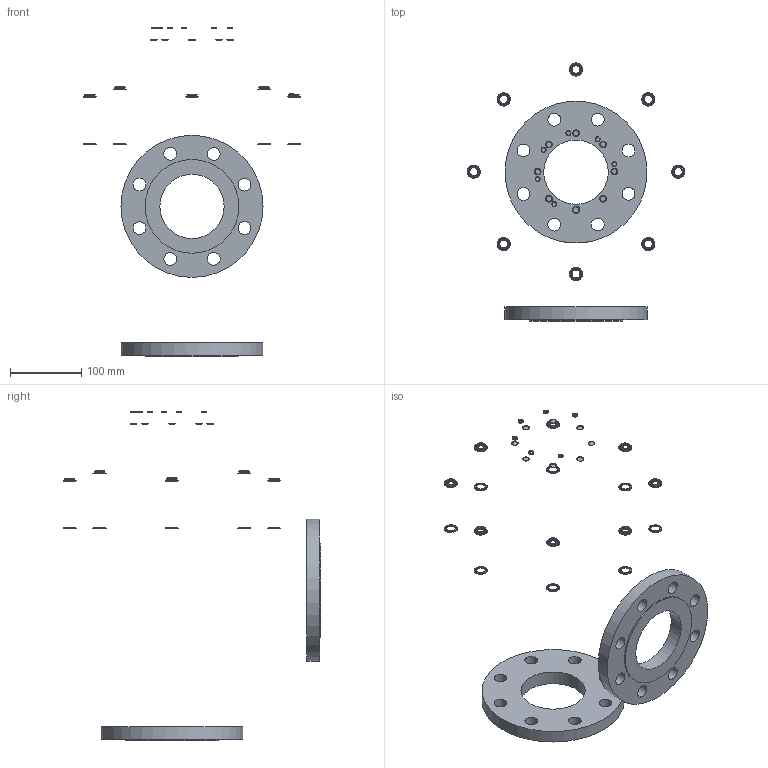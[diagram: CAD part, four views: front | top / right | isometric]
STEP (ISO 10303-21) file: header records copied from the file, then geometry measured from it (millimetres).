
FILE_DESCRIPTION( ( 'Unknown' ), '1' );
FILE_NAME( 'M:/Users/Roy/M103C-DIN.stp', 'Unknown', ( 'Unknown' ), ( 'Unknown' ), 'XStep 1.0', 'Unknown', ' ' );
FILE_SCHEMA( ( 'automotive_design' ) );
Length unit declared in the file: millimetre
Products named in the file (32): 1; 2; 3; 4; 5; 6; 7; 8; 9; 10; 11; 12; 13; 14; 15; 16; 17; 18; 19; 20; 21; 22; 23; 24; 25; 26; 27; 28; 29; 30; 31; 32
Bounding box: 306.46 x 363.23 x 464.45 mm (x, y, z)
Volume: 858493.8 mm3; surface area: 153762.2 mm2
Topology: 32 solids, 32 shells, 274 faces, 589 edges, 401 vertices
Faces by surface type: bspline 92, plane 88, cylinder 78, cone 16
Full cylindrical faces by diameter (mm): 6 x5, 6.35 x4, 7.137 x5, 11.2 x8, 12.7 x16, 14 x8, 18 x16, 90.5 x2, 132 x2, 200 x2
Entity records: 14391 total; most frequent: CARTESIAN_POINT 6683, ORIENTED_EDGE 938, DIRECTION 857, EDGE_CURVE 469, EDGE_LOOP 458, AXIS2_PLACEMENT_3D 388, VERTEX_POINT 365, FACE_OUTER_BOUND 342
